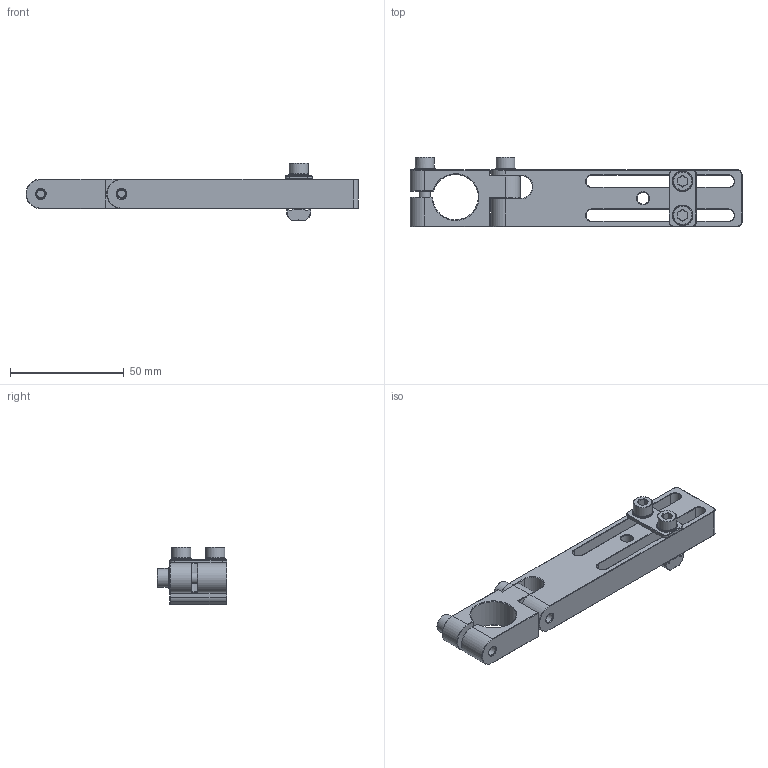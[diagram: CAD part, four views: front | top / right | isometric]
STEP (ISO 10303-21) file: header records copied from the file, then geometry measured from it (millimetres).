
FILE_DESCRIPTION(/* description */ (''),/* implementation_level */ '2;1');
FILE_NAME(/* name */ '_model1.stp',/* time_stamp */ '2022-06-28T10:38:18+08:00',/* author */ (''),/* organization */ (''),/* preprocessor_version */ 'ST-DEVELOPER v16',/* originating_system */ 'SIEMENS PLM Software NX 10.0',/* authorisation */ '');
FILE_SCHEMA (('AUTOMOTIVE_DESIGN { 1 0 10303 214 3 1 1 1 }'));
Length unit declared in the file: millimetre
Products named in the file (1): Admi2408D5D05y9p
Bounding box: 146 x 30.55 x 25.45 mm (x, y, z)
Volume: 35319.2 mm3; surface area: 18406.9 mm2
Topology: 1 solids, 1 shells, 1169 faces, 4040 edges, 2465 vertices
Faces by surface type: plane 1001, cone 88, cylinder 64, bspline 12, torus 4
Full cylindrical faces by diameter (mm): 4.2 x2, 5 x4, 5.2 x5, 5.5 x6, 8.3 x4, 9 x4
Entity records: 52181 total; most frequent: CARTESIAN_POINT 8177, ORIENTED_EDGE 7938, DIRECTION 7584, EDGE_CURVE 3969, LINE 2538, VECTOR 2538, AXIS2_PLACEMENT_3D 2523, VERTEX_POINT 2445
